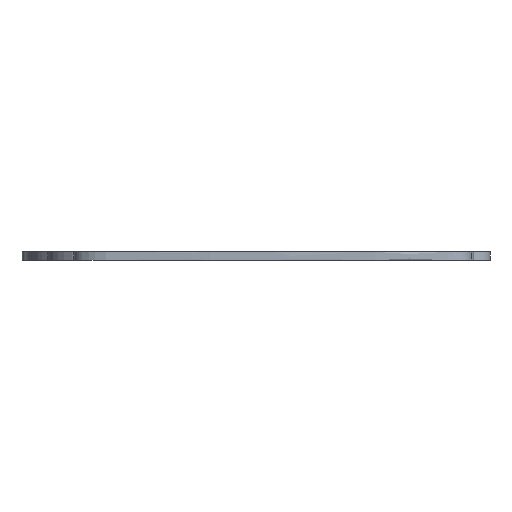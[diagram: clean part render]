
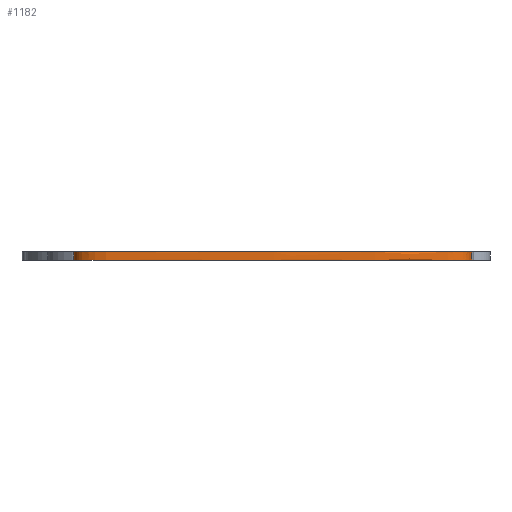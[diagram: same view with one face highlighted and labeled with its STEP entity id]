
A CAD part, front view. The second image highlights one B-rep face of the part: STEP entity #1182.
In plain terms, the highlighted face is a extrusion surface.
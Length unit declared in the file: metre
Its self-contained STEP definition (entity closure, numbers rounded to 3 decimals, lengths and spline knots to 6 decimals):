
#1182=ADVANCED_FACE('',(#2699),#2700,.T.);
#2699=FACE_OUTER_BOUND('',#5120,.T.);
#2700=SURFACE_OF_LINEAR_EXTRUSION('',#5121,#5122);
#5120=EDGE_LOOP('',(#8378,#8379,#8380,#8381));
#5121=B_SPLINE_CURVE_WITH_KNOTS('',3,(#8382,#8383,#8384,#8385,#8386,#8387,#8388,#8389,#8390,#8391,#8392,#8393,#8394,#8395,#8396,#8397,#8398,#8399),.UNSPECIFIED.,.F.,.F.,(4,1,1,1,1,1,1,1,1,1,1,1,1,1,1,4),(0.196002,0.20376,0.209581,0.21645,0.223284,0.230201,0.242579,0.273537,0.317242,0.361891,0.396061,0.420572,0.430016,0.437184,0.442588,0.446797),.UNSPECIFIED.);
#5122=VECTOR('',#8400,1.0);
#8378=ORIENTED_EDGE('',*,*,#15420,.F.);
#8379=ORIENTED_EDGE('',*,*,#15421,.F.);
#8380=ORIENTED_EDGE('',*,*,#15422,.T.);
#8381=ORIENTED_EDGE('',*,*,#15416,.T.);
#8382=CARTESIAN_POINT('',(0.819594,0.06807,0.0));
#8383=CARTESIAN_POINT('',(0.82141,0.067795,0.0));
#8384=CARTESIAN_POINT('',(0.824588,0.067312,0.0));
#8385=CARTESIAN_POINT('',(0.828912,0.06488,0.0));
#8386=CARTESIAN_POINT('',(0.831286,0.060563,0.0));
#8387=CARTESIAN_POINT('',(0.830506,0.05541,0.0));
#8388=CARTESIAN_POINT('',(0.825893,0.05081,0.0));
#8389=CARTESIAN_POINT('',(0.813786,0.048976,0.0));
#8390=CARTESIAN_POINT('',(0.793659,0.046968,0.0));
#8391=CARTESIAN_POINT('',(0.76545,0.046792,0.0));
#8392=CARTESIAN_POINT('',(0.736541,0.046437,0.0));
#8393=CARTESIAN_POINT('',(0.712504,0.048951,0.0));
#8394=CARTESIAN_POINT('',(0.696011,0.048664,0.0));
#8395=CARTESIAN_POINT('',(0.687478,0.054894,0.0));
#8396=CARTESIAN_POINT('',(0.687022,0.06056,0.0));
#8397=CARTESIAN_POINT('',(0.688985,0.0642,0.0));
#8398=CARTESIAN_POINT('',(0.690882,0.065473,0.0));
#8399=CARTESIAN_POINT('',(0.691712,0.066031,0.0));
#8400=DIRECTION('',(0.,0.,-1.0));
#15416=EDGE_CURVE('',#19580,#19577,#19581,.T.);
#15420=EDGE_CURVE('',#19586,#19577,#19587,.T.);
#15421=EDGE_CURVE('',#19588,#19586,#19589,.T.);
#15422=EDGE_CURVE('',#19588,#19580,#19590,.T.);
#19577=VERTEX_POINT('',#22160);
#19580=VERTEX_POINT('',#22167);
#19581=LINE('',#22168,#22169);
#19586=VERTEX_POINT('',#22179);
#19587=B_SPLINE_CURVE_WITH_KNOTS('',3,(#22180,#22181,#22182,#22183,#22184,#22185,#22186,#22187,#22188,#22189,#22190,#22191,#22192,#22193,#22194,#22195,#22196,#22197),.UNSPECIFIED.,.F.,.F.,(4,1,1,1,1,1,1,1,1,1,1,1,1,1,1,4),(0.196002,0.20376,0.209581,0.21645,0.223284,0.230201,0.242579,0.273537,0.317242,0.361891,0.396061,0.420572,0.430016,0.437184,0.442588,0.446797),.UNSPECIFIED.);
#19588=VERTEX_POINT('',#22198);
#19589=LINE('',#22199,#22200);
#19590=B_SPLINE_CURVE_WITH_KNOTS('',3,(#22201,#22202,#22203,#22204,#22205,#22206,#22207,#22208,#22209,#22210,#22211,#22212,#22213,#22214,#22215,#22216,#22217,#22218),.UNSPECIFIED.,.F.,.F.,(4,1,1,1,1,1,1,1,1,1,1,1,1,1,1,4),(0.196002,0.20376,0.209581,0.21645,0.223284,0.230201,0.242579,0.273537,0.317242,0.361891,0.396061,0.420572,0.430016,0.437184,0.442588,0.446797),.UNSPECIFIED.);
#22160=CARTESIAN_POINT('',(0.691712,0.066031,-0.003));
#22167=CARTESIAN_POINT('',(0.691712,0.066031,0.0));
#22168=CARTESIAN_POINT('',(0.691712,0.066031,0.0));
#22169=VECTOR('',#30692,1.0);
#22179=CARTESIAN_POINT('',(0.819594,0.06807,-0.003));
#22180=CARTESIAN_POINT('',(0.819594,0.06807,-0.003));
#22181=CARTESIAN_POINT('',(0.82141,0.067795,-0.003));
#22182=CARTESIAN_POINT('',(0.824588,0.067312,-0.003));
#22183=CARTESIAN_POINT('',(0.828912,0.06488,-0.003));
#22184=CARTESIAN_POINT('',(0.831286,0.060563,-0.003));
#22185=CARTESIAN_POINT('',(0.830506,0.05541,-0.003));
#22186=CARTESIAN_POINT('',(0.825893,0.05081,-0.003));
#22187=CARTESIAN_POINT('',(0.813786,0.048976,-0.003));
#22188=CARTESIAN_POINT('',(0.793659,0.046968,-0.003));
#22189=CARTESIAN_POINT('',(0.76545,0.046792,-0.003));
#22190=CARTESIAN_POINT('',(0.736541,0.046437,-0.003));
#22191=CARTESIAN_POINT('',(0.712504,0.048951,-0.003));
#22192=CARTESIAN_POINT('',(0.696011,0.048664,-0.003));
#22193=CARTESIAN_POINT('',(0.687478,0.054894,-0.003));
#22194=CARTESIAN_POINT('',(0.687022,0.06056,-0.003));
#22195=CARTESIAN_POINT('',(0.688985,0.0642,-0.003));
#22196=CARTESIAN_POINT('',(0.690882,0.065473,-0.003));
#22197=CARTESIAN_POINT('',(0.691712,0.066031,-0.003));
#22198=CARTESIAN_POINT('',(0.819594,0.06807,0.0));
#22199=CARTESIAN_POINT('',(0.819594,0.06807,0.0));
#22200=VECTOR('',#30694,1.0);
#22201=CARTESIAN_POINT('',(0.819594,0.06807,0.0));
#22202=CARTESIAN_POINT('',(0.82141,0.067795,0.0));
#22203=CARTESIAN_POINT('',(0.824588,0.067312,0.0));
#22204=CARTESIAN_POINT('',(0.828912,0.06488,0.0));
#22205=CARTESIAN_POINT('',(0.831286,0.060563,0.0));
#22206=CARTESIAN_POINT('',(0.830506,0.05541,0.0));
#22207=CARTESIAN_POINT('',(0.825893,0.05081,0.0));
#22208=CARTESIAN_POINT('',(0.813786,0.048976,0.0));
#22209=CARTESIAN_POINT('',(0.793659,0.046968,0.0));
#22210=CARTESIAN_POINT('',(0.76545,0.046792,0.0));
#22211=CARTESIAN_POINT('',(0.736541,0.046437,0.0));
#22212=CARTESIAN_POINT('',(0.712504,0.048951,0.0));
#22213=CARTESIAN_POINT('',(0.696011,0.048664,0.0));
#22214=CARTESIAN_POINT('',(0.687478,0.054894,0.0));
#22215=CARTESIAN_POINT('',(0.687022,0.06056,0.0));
#22216=CARTESIAN_POINT('',(0.688985,0.0642,0.0));
#22217=CARTESIAN_POINT('',(0.690882,0.065473,0.0));
#22218=CARTESIAN_POINT('',(0.691712,0.066031,0.0));
#30692=DIRECTION('',(0.,0.,-1.0));
#30694=DIRECTION('',(0.,0.,-1.0));
